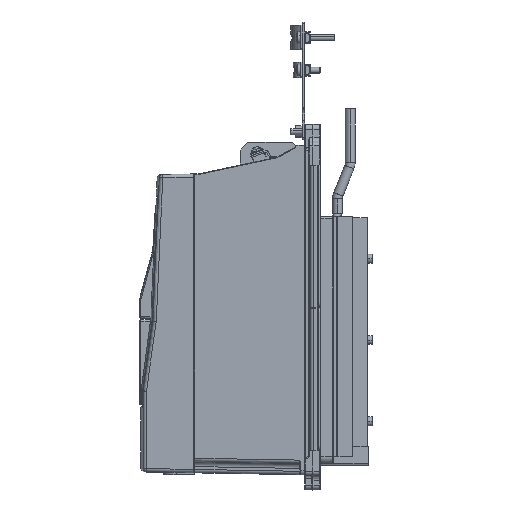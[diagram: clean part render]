
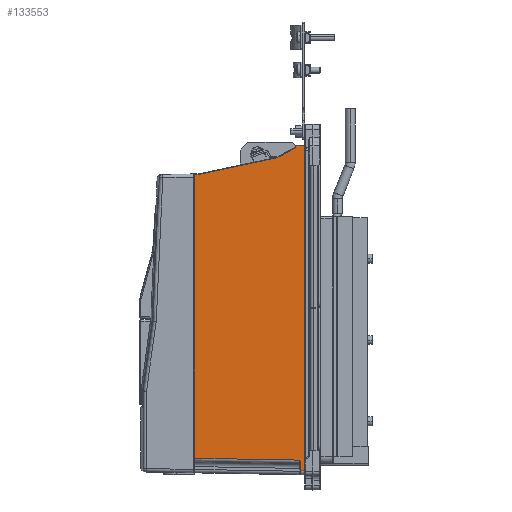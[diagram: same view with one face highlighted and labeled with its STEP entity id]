
A CAD part, left-side view. The second image highlights one B-rep face of the part: STEP entity #133553.
In plain terms, the highlighted planar face has unit normal (-1, 0.018, 0).
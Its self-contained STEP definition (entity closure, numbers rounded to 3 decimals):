
#178 = VECTOR ( 'NONE', #37281, 1000. ) ;
#2548 = EDGE_CURVE ( 'NONE', #66881, #37912, #75137, .T. ) ;
#4225 = EDGE_CURVE ( 'NONE', #134891, #34631, #90896, .T. ) ;
#6456 = EDGE_CURVE ( 'NONE', #134891, #74549, #33802, .T. ) ;
#6780 = FACE_OUTER_BOUND ( 'NONE', #131907, .T. ) ;
#6896 = CARTESIAN_POINT ( 'NONE',  ( -108.809, 58.009, -153.124 ) ) ;
#6923 = ORIENTED_EDGE ( 'NONE', *, *, #6456, .F. ) ;
#10061 = CARTESIAN_POINT ( 'NONE',  ( -110.73, -49.009, -154.992 ) ) ;
#10634 = ORIENTED_EDGE ( 'NONE', *, *, #43294, .F. ) ;
#11948 = VERTEX_POINT ( 'NONE', #133228 ) ;
#16599 = DIRECTION ( 'NONE',  ( 0.018, 1., 0. ) ) ;
#18332 = VERTEX_POINT ( 'NONE', #10061 ) ;
#19992 = VECTOR ( 'NONE', #41020, 1000. ) ;
#20995 = CARTESIAN_POINT ( 'NONE',  ( -108.891, 53.455, 136.607 ) ) ;
#25585 = EDGE_CURVE ( 'NONE', #66881, #34631, #37955, .T. ) ;
#26351 = DIRECTION ( 'NONE',  ( 1., -0.018, 0. ) ) ;
#30395 = LINE ( 'NONE', #113990, #51228 ) ;
#30532 = DIRECTION ( 'NONE',  ( -0.018, -1., -0.018 ) ) ;
#32020 = CARTESIAN_POINT ( 'NONE',  ( -108.81, 57.916, 136.51 ) ) ;
#33802 =( BOUNDED_CURVE ( )  B_SPLINE_CURVE ( 3, ( #131791, #78193, #121312, #112258 ),
 .UNSPECIFIED., .F., .T. ) 
 B_SPLINE_CURVE_WITH_KNOTS ( ( 4, 4 ),
 ( 4.712, 5.76 ),
 .UNSPECIFIED. ) 
 CURVE ( )  GEOMETRIC_REPRESENTATION_ITEM ( )  RATIONAL_B_SPLINE_CURVE ( ( 1., 0.911, 0.911, 1. ) ) 
 REPRESENTATION_ITEM ( '' )  );
#34631 = VERTEX_POINT ( 'NONE', #114920 ) ;
#35385 = EDGE_CURVE ( 'NONE', #44895, #130861, #109471, .T. ) ;
#35521 =( BOUNDED_CURVE ( )  B_SPLINE_CURVE ( 3, ( #115679, #116367, #50264, #20995 ),
 .UNSPECIFIED., .F., .F. ) 
 B_SPLINE_CURVE_WITH_KNOTS ( ( 4, 4 ),
 ( 1.588, 1.78 ),
 .UNSPECIFIED. ) 
 CURVE ( )  GEOMETRIC_REPRESENTATION_ITEM ( )  RATIONAL_B_SPLINE_CURVE ( ( 1., 0.997, 0.997, 1. ) ) 
 REPRESENTATION_ITEM ( '' )  );
#37012 = CARTESIAN_POINT ( 'NONE',  ( -108.809, 58.009, 136.509 ) ) ;
#37281 = DIRECTION ( 'NONE',  ( 0.016, 0.866, -0.5 ) ) ;
#37571 = VECTOR ( 'NONE', #60252, 1000. ) ;
#37912 = VERTEX_POINT ( 'NONE', #84031 ) ;
#37931 = CARTESIAN_POINT ( 'NONE',  ( -110.332, -26.837, 153.723 ) ) ;
#37955 =( BOUNDED_CURVE ( )  B_SPLINE_CURVE ( 3, ( #111081, #70667, #101322, #37931 ),
 .UNSPECIFIED., .F., .F. ) 
 B_SPLINE_CURVE_WITH_KNOTS ( ( 4, 4 ),
 ( 4.398, 4.712 ),
 .UNSPECIFIED. ) 
 CURVE ( )  GEOMETRIC_REPRESENTATION_ITEM ( )  RATIONAL_B_SPLINE_CURVE ( ( 1., 0.992, 0.992, 1. ) ) 
 REPRESENTATION_ITEM ( '' )  );
#38851 = CARTESIAN_POINT ( 'NONE',  ( -108.8, 58.5, 170. ) ) ;
#41020 = DIRECTION ( 'NONE',  ( 0.018, 0.978, -0.208 ) ) ;
#41456 = CARTESIAN_POINT ( 'NONE',  ( -110.747, -49.991, -157.379 ) ) ;
#42411 = EDGE_CURVE ( 'NONE', #104055, #115323, #129633, .T. ) ;
#43174 = AXIS2_PLACEMENT_3D ( 'NONE', #38851, #26351, #68872 ) ;
#43180 = CARTESIAN_POINT ( 'NONE',  ( -110.747, -49.991, -157.617 ) ) ;
#43294 = EDGE_CURVE ( 'NONE', #11948, #37912, #35521, .T. ) ;
#43429 = CARTESIAN_POINT ( 'NONE',  ( -110.747, -49.991, -165.929 ) ) ;
#43916 = VECTOR ( 'NONE', #129753, 1000. ) ;
#43976 = CARTESIAN_POINT ( 'NONE',  ( -108.809, 58.009, 170. ) ) ;
#44895 = VERTEX_POINT ( 'NONE', #43180 ) ;
#45885 = CARTESIAN_POINT ( 'NONE',  ( -110.658, -44.991, 166. ) ) ;
#47461 = CARTESIAN_POINT ( 'NONE',  ( -110.747, -49.991, -165.921 ) ) ;
#50264 = CARTESIAN_POINT ( 'NONE',  ( -108.889, 53.518, 136.593 ) ) ;
#50546 = CARTESIAN_POINT ( 'NONE',  ( -110.73, -49.009, -154.992 ) ) ;
#51127 = EDGE_CURVE ( 'NONE', #130861, #106138, #116870, .T. ) ;
#51228 = VECTOR ( 'NONE', #59689, 1000. ) ;
#53512 = VECTOR ( 'NONE', #16599, 1000. ) ;
#54594 = ORIENTED_EDGE ( 'NONE', *, *, #42411, .T. ) ;
#56419 = EDGE_CURVE ( 'NONE', #76948, #72577, #81350, .T. ) ;
#56457 = ORIENTED_EDGE ( 'NONE', *, *, #56419, .T. ) ;
#59689 = DIRECTION ( 'NONE',  ( 0., 0., -1. ) ) ;
#60131 = ORIENTED_EDGE ( 'NONE', *, *, #105656, .T. ) ;
#60252 = DIRECTION ( 'NONE',  ( 0., 0., -1. ) ) ;
#60762 = ORIENTED_EDGE ( 'NONE', *, *, #120849, .T. ) ;
#66881 = VERTEX_POINT ( 'NONE', #104949 ) ;
#67209 = VECTOR ( 'NONE', #110105, 1000. ) ;
#67785 = LINE ( 'NONE', #118610, #43916 ) ;
#68206 = VECTOR ( 'NONE', #126024, 1000. ) ;
#68872 = DIRECTION ( 'NONE',  ( 0.018, 1., 0. ) ) ;
#69385 = EDGE_CURVE ( 'NONE', #76948, #106138, #30395, .T. ) ;
#70667 = CARTESIAN_POINT ( 'NONE',  ( -110.328, -26.648, 153.633 ) ) ;
#71456 = EDGE_CURVE ( 'NONE', #72577, #74549, #123605, .T. ) ;
#71593 = CARTESIAN_POINT ( 'NONE',  ( -110.819, -54., -166.001 ) ) ;
#72163 = CARTESIAN_POINT ( 'NONE',  ( -110.745, -49.84, -156.69 ) ) ;
#72577 = VERTEX_POINT ( 'NONE', #45885 ) ;
#73511 = CARTESIAN_POINT ( 'NONE',  ( -110.747, -49.991, -157.617 ) ) ;
#74549 = VERTEX_POINT ( 'NONE', #79918 ) ;
#75137 = LINE ( 'NONE', #117577, #19992 ) ;
#76948 = VERTEX_POINT ( 'NONE', #113417 ) ;
#78193 = CARTESIAN_POINT ( 'NONE',  ( -110.654, -44.808, 164.1 ) ) ;
#79918 = CARTESIAN_POINT ( 'NONE',  ( -110.658, -44.991, 164.784 ) ) ;
#81350 = LINE ( 'NONE', #135629, #53512 ) ;
#84031 = CARTESIAN_POINT ( 'NONE',  ( -108.891, 53.455, 136.607 ) ) ;
#86075 = CARTESIAN_POINT ( 'NONE',  ( -110.649, -44.491, 163.917 ) ) ;
#88925 = EDGE_CURVE ( 'NONE', #18332, #44895, #91249, .T. ) ;
#90896 = LINE ( 'NONE', #113846, #178 ) ;
#91249 = B_SPLINE_CURVE_WITH_KNOTS ( 'NONE', 3,
 ( #50546, #93014, #93700, #105546, #72163, #137554, #41456, #73511 ),
 .UNSPECIFIED., .F., .F.,
 ( 4, 2, 2, 4 ),
 ( 0., 0.001, 0.002, 0.003 ),
 .UNSPECIFIED. ) ;
#91774 = PLANE ( 'NONE',  #43174 ) ;
#91962 = ORIENTED_EDGE ( 'NONE', *, *, #69385, .F. ) ;
#93014 = CARTESIAN_POINT ( 'NONE',  ( -110.734, -49.246, -155.402 ) ) ;
#93109 = ORIENTED_EDGE ( 'NONE', *, *, #35385, .T. ) ;
#93360 = ORIENTED_EDGE ( 'NONE', *, *, #25585, .F. ) ;
#93700 = CARTESIAN_POINT ( 'NONE',  ( -110.738, -49.482, -155.814 ) ) ;
#99306 = ORIENTED_EDGE ( 'NONE', *, *, #71456, .T. ) ;
#101322 = CARTESIAN_POINT ( 'NONE',  ( -110.33, -26.746, 153.671 ) ) ;
#104055 = VERTEX_POINT ( 'NONE', #37012 ) ;
#104949 = CARTESIAN_POINT ( 'NONE',  ( -110.326, -26.545, 153.611 ) ) ;
#105546 = CARTESIAN_POINT ( 'NONE',  ( -110.743, -49.76, -156.465 ) ) ;
#105656 = EDGE_CURVE ( 'NONE', #11948, #104055, #106525, .T. ) ;
#106138 = VERTEX_POINT ( 'NONE', #71593 ) ;
#106525 = LINE ( 'NONE', #32020, #68206 ) ;
#106660 = ORIENTED_EDGE ( 'NONE', *, *, #88925, .T. ) ;
#109471 = LINE ( 'NONE', #47461, #117604 ) ;
#110105 = DIRECTION ( 'NONE',  ( 0., 0., -1. ) ) ;
#111081 = CARTESIAN_POINT ( 'NONE',  ( -110.326, -26.545, 153.611 ) ) ;
#112258 = CARTESIAN_POINT ( 'NONE',  ( -110.658, -44.991, 164.784 ) ) ;
#112464 = ORIENTED_EDGE ( 'NONE', *, *, #51127, .T. ) ;
#113417 = CARTESIAN_POINT ( 'NONE',  ( -110.819, -54., 166. ) ) ;
#113846 = CARTESIAN_POINT ( 'NONE',  ( -110.33, -26.763, 153.681 ) ) ;
#113990 = CARTESIAN_POINT ( 'NONE',  ( -110.819, -54., 170. ) ) ;
#114920 = CARTESIAN_POINT ( 'NONE',  ( -110.332, -26.837, 153.723 ) ) ;
#115323 = VERTEX_POINT ( 'NONE', #6896 ) ;
#115679 = CARTESIAN_POINT ( 'NONE',  ( -108.887, 53.646, 136.585 ) ) ;
#116367 = CARTESIAN_POINT ( 'NONE',  ( -108.888, 53.582, 136.586 ) ) ;
#116870 = LINE ( 'NONE', #128027, #123394 ) ;
#117577 = CARTESIAN_POINT ( 'NONE',  ( -108.926, 51.493, 137.024 ) ) ;
#117604 = VECTOR ( 'NONE', #130379, 1000. ) ;
#118610 = CARTESIAN_POINT ( 'NONE',  ( -108.699, 64.136, -153.017 ) ) ;
#120849 = EDGE_CURVE ( 'NONE', #115323, #18332, #67785, .T. ) ;
#121312 = CARTESIAN_POINT ( 'NONE',  ( -110.658, -44.991, 164.418 ) ) ;
#123394 = VECTOR ( 'NONE', #30532, 1000. ) ;
#123418 = ORIENTED_EDGE ( 'NONE', *, *, #2548, .T. ) ;
#123605 = LINE ( 'NONE', #135433, #37571 ) ;
#126024 = DIRECTION ( 'NONE',  ( 0.018, 1., -0.017 ) ) ;
#128027 = CARTESIAN_POINT ( 'NONE',  ( -108.693, 64.434, -163.895 ) ) ;
#129633 = LINE ( 'NONE', #43976, #67209 ) ;
#129753 = DIRECTION ( 'NONE',  ( -0.018, -1., -0.017 ) ) ;
#130379 = DIRECTION ( 'NONE',  ( 0., 0., -1. ) ) ;
#130861 = VERTEX_POINT ( 'NONE', #43429 ) ;
#131791 = CARTESIAN_POINT ( 'NONE',  ( -110.649, -44.491, 163.917 ) ) ;
#131907 = EDGE_LOOP ( 'NONE', ( #91962, #56457, #99306, #6923, #135178, #93360, #123418, #10634, #60131, #54594, #60762, #106660, #93109, #112464 ) ) ;
#133228 = CARTESIAN_POINT ( 'NONE',  ( -108.887, 53.646, 136.585 ) ) ;
#133553 = ADVANCED_FACE ( 'NONE', ( #6780 ), #91774, .F. ) ;
#134891 = VERTEX_POINT ( 'NONE', #86075 ) ;
#135178 = ORIENTED_EDGE ( 'NONE', *, *, #4225, .T. ) ;
#135433 = CARTESIAN_POINT ( 'NONE',  ( -110.658, -44.991, 170. ) ) ;
#135629 = CARTESIAN_POINT ( 'NONE',  ( -108.8, 58.5, 166. ) ) ;
#137554 = CARTESIAN_POINT ( 'NONE',  ( -110.747, -49.956, -157.147 ) ) ;
